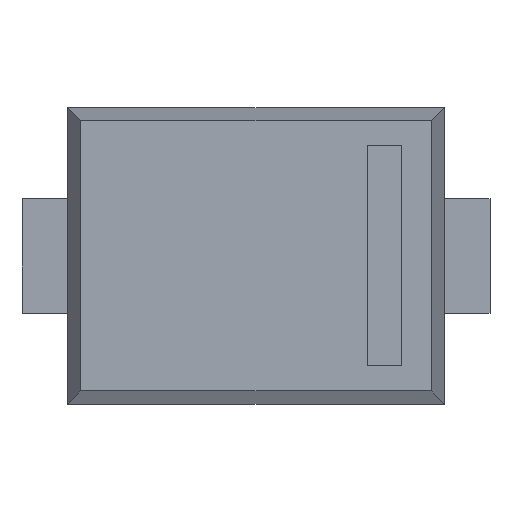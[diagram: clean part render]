
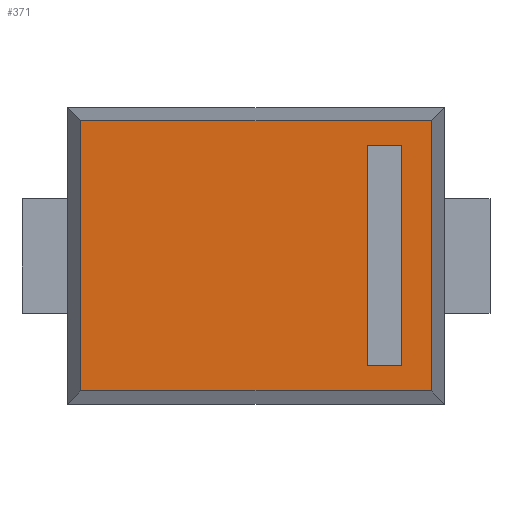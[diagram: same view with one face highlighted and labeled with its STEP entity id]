
A CAD part, top view. The second image highlights one B-rep face of the part: STEP entity #371.
In plain terms, the highlighted planar face has unit normal (0, 0, 1).
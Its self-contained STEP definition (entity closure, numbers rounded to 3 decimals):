
#371=ADVANCED_FACE('',(#377),#372,.T.);
#372=PLANE('',#373);
#373=AXIS2_PLACEMENT_3D('',#374,#375,#376);
#374=CARTESIAN_POINT('',(-0.39,-0.301,0.406));
#375=DIRECTION('',(0.0,0.0,1.0));
#376=DIRECTION('',(0.,1.,0.));
#377=FACE_OUTER_BOUND('',#378,.T.);
#378=EDGE_LOOP('',(#379,#389,#399,#409));
#382=CARTESIAN_POINT('',(0.39,-0.301,0.406));
#381=VERTEX_POINT('',#382);
#384=CARTESIAN_POINT('',(-0.39,-0.301,0.406));
#383=VERTEX_POINT('',#384);
#380=EDGE_CURVE('',#381,#383,#385,.T.);
#385=LINE('',#382,#387);
#387=VECTOR('',#388,0.779);
#388=DIRECTION('',(-1.0,0.0,0.0));
#379=ORIENTED_EDGE('',*,*,#380,.F.);
#392=CARTESIAN_POINT('',(0.39,0.301,0.406));
#391=VERTEX_POINT('',#392);
#390=EDGE_CURVE('',#391,#381,#395,.T.);
#395=LINE('',#392,#397);
#397=VECTOR('',#398,0.601);
#398=DIRECTION('',(0.0,-1.0,0.0));
#389=ORIENTED_EDGE('',*,*,#390,.F.);
#402=CARTESIAN_POINT('',(-0.39,0.301,0.406));
#401=VERTEX_POINT('',#402);
#400=EDGE_CURVE('',#401,#391,#405,.T.);
#405=LINE('',#402,#407);
#407=VECTOR('',#408,0.779);
#408=DIRECTION('',(1.0,0.0,0.0));
#399=ORIENTED_EDGE('',*,*,#400,.F.);
#410=EDGE_CURVE('',#383,#401,#415,.T.);
#415=LINE('',#384,#417);
#417=VECTOR('',#418,0.601);
#418=DIRECTION('',(0.0,1.0,0.0));
#409=ORIENTED_EDGE('',*,*,#410,.F.);
